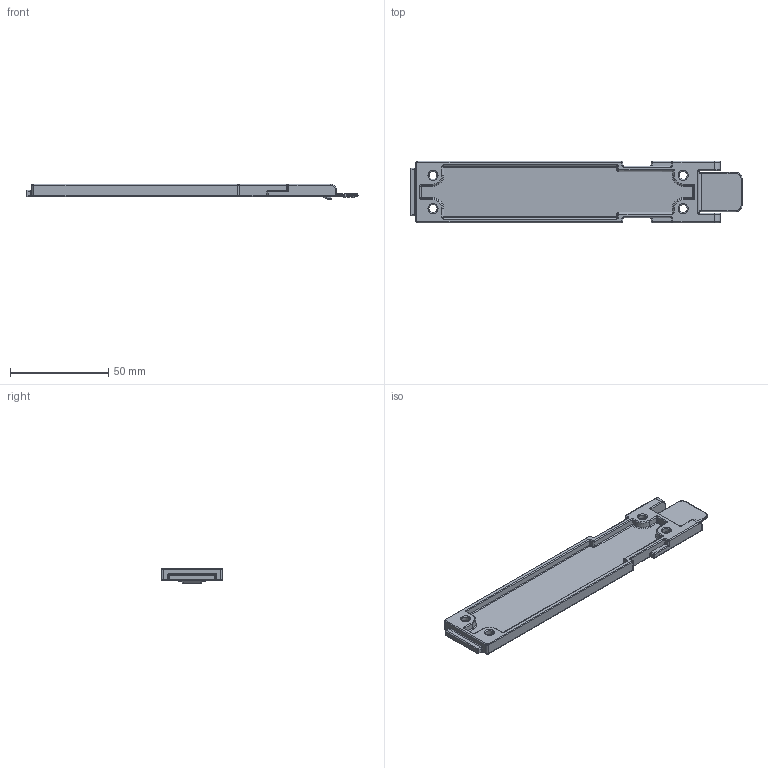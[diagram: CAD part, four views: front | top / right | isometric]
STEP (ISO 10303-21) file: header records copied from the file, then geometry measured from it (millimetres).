
FILE_DESCRIPTION((''),'2;1');
FILE_NAME('1056W1013','2021-03-04T10:45:59',('hga'),(''),'CREO PARAMETRIC BY PTC INC, 2019344','CREO PARAMETRIC BY PTC INC, 2019344','');
FILE_SCHEMA(('AUTOMOTIVE_DESIGN { 1 0 10303 214 1 1 1 1 }'));
Length unit declared in the file: millimetre
Products named in the file (1): 1056W1013
Bounding box: 168.99 x 31.4 x 7.8 mm (x, y, z)
Volume: 16481.4 mm3; surface area: 13853.2 mm2
Topology: 1 solids, 1 shells, 349 faces, 770 edges, 432 vertices
Faces by surface type: cylinder 136, torus 65, plane 62, bspline 35, sphere 29, cone 22
Entity records: 14143 total; most frequent: CARTESIAN_POINT 4026, DIRECTION 1743, ORIENTED_EDGE 1540, PRESENTATION_STYLE_ASSIGNMENT 771, STYLED_ITEM 771, CURVE_STYLE 770, EDGE_CURVE 770, AXIS2_PLACEMENT_3D 716
